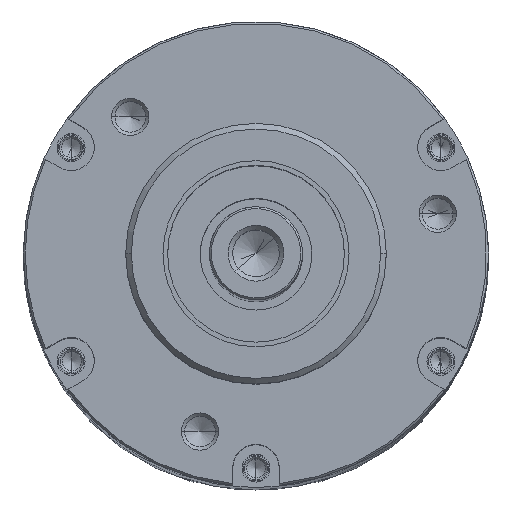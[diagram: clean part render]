
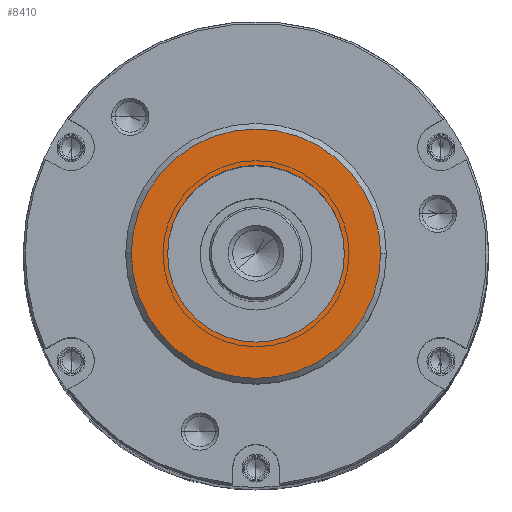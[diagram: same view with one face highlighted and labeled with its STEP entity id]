
A CAD part, top view. The second image highlights one B-rep face of the part: STEP entity #8410.
In plain terms, the highlighted planar face has unit normal (0, 0, 1).
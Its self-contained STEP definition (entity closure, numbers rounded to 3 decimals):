
#228 = ORIENTED_EDGE ( 'NONE', *, *, #2102, .T. ) ;
#640 = CARTESIAN_POINT ( 'NONE',  ( 6.879, 46.435, 146.725 ) ) ;
#650 = CIRCLE ( 'NONE', #4793, 9.5 ) ;
#752 = DIRECTION ( 'NONE',  ( 0., 0., 1. ) ) ;
#1424 = CARTESIAN_POINT ( 'NONE',  ( -2.621, 46.435, 146.725 ) ) ;
#1777 = CARTESIAN_POINT ( 'NONE',  ( 6.879, 55.935, 146.725 ) ) ;
#1800 = DIRECTION ( 'NONE',  ( 1., 0., 0. ) ) ;
#1853 = CIRCLE ( 'NONE', #13210, 13.4 ) ;
#2102 = EDGE_CURVE ( 'NONE', #13476, #13735, #13148, .T. ) ;
#2729 = AXIS2_PLACEMENT_3D ( 'NONE', #14318, #752, #14220 ) ;
#3559 = AXIS2_PLACEMENT_3D ( 'NONE', #1777, #5335, #6415 ) ;
#3834 = CARTESIAN_POINT ( 'NONE',  ( 6.879, 46.435, 146.725 ) ) ;
#3975 = FACE_OUTER_BOUND ( 'NONE', #4531, .T. ) ;
#4070 = DIRECTION ( 'NONE',  ( 0., 0., 1. ) ) ;
#4425 = DIRECTION ( 'NONE',  ( 0., 0., -1. ) ) ;
#4531 = EDGE_LOOP ( 'NONE', ( #228, #7854 ) ) ;
#4580 = DIRECTION ( 'NONE',  ( -1., 0., 0. ) ) ;
#4665 = AXIS2_PLACEMENT_3D ( 'NONE', #6741, #4425, #4580 ) ;
#4793 = AXIS2_PLACEMENT_3D ( 'NONE', #3834, #9562, #8516 ) ;
#4848 = EDGE_LOOP ( 'NONE', ( #11478, #5204 ) ) ;
#5204 = ORIENTED_EDGE ( 'NONE', *, *, #12546, .T. ) ;
#5335 = DIRECTION ( 'NONE',  ( 0., 0., 1. ) ) ;
#5770 = EDGE_CURVE ( 'NONE', #13735, #13476, #1853, .T. ) ;
#6415 = DIRECTION ( 'NONE',  ( 1., 0., 0. ) ) ;
#6741 = CARTESIAN_POINT ( 'NONE',  ( 6.879, 46.435, 146.725 ) ) ;
#6993 = FACE_BOUND ( 'NONE', #4848, .T. ) ;
#7582 = VERTEX_POINT ( 'NONE', #8892 ) ;
#7854 = ORIENTED_EDGE ( 'NONE', *, *, #5770, .T. ) ;
#8125 = CARTESIAN_POINT ( 'NONE',  ( -6.521, 46.435, 146.725 ) ) ;
#8410 = ADVANCED_FACE ( 'NONE', ( #3975, #6993 ), #14289, .T. ) ;
#8516 = DIRECTION ( 'NONE',  ( -1., 0., 0. ) ) ;
#8892 = CARTESIAN_POINT ( 'NONE',  ( 16.379, 46.435, 146.725 ) ) ;
#9562 = DIRECTION ( 'NONE',  ( 0., 0., -1. ) ) ;
#10799 = VERTEX_POINT ( 'NONE', #1424 ) ;
#11478 = ORIENTED_EDGE ( 'NONE', *, *, #13561, .T. ) ;
#12546 = EDGE_CURVE ( 'NONE', #7582, #10799, #13828, .T. ) ;
#13148 = CIRCLE ( 'NONE', #2729, 13.4 ) ;
#13210 = AXIS2_PLACEMENT_3D ( 'NONE', #640, #4070, #1800 ) ;
#13476 = VERTEX_POINT ( 'NONE', #8125 ) ;
#13561 = EDGE_CURVE ( 'NONE', #10799, #7582, #650, .T. ) ;
#13735 = VERTEX_POINT ( 'NONE', #14454 ) ;
#13828 = CIRCLE ( 'NONE', #4665, 9.5 ) ;
#14220 = DIRECTION ( 'NONE',  ( 1., 0., 0. ) ) ;
#14289 = PLANE ( 'NONE',  #3559 ) ;
#14318 = CARTESIAN_POINT ( 'NONE',  ( 6.879, 46.435, 146.725 ) ) ;
#14454 = CARTESIAN_POINT ( 'NONE',  ( 20.279, 46.435, 146.725 ) ) ;
